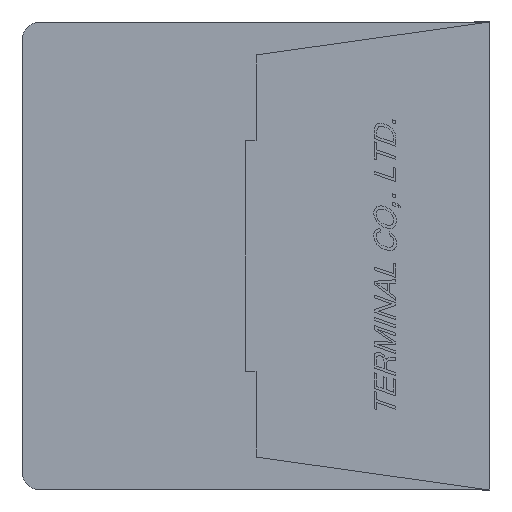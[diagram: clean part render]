
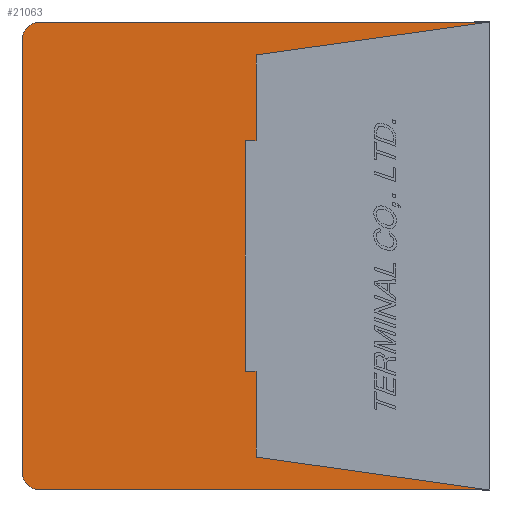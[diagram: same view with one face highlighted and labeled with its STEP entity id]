
A CAD part, left-side view. The second image highlights one B-rep face of the part: STEP entity #21063.
In plain terms, the highlighted planar face has unit normal (-1, 0, 0) as drawn and (1, 0, 0) by its records, which use the part's own axes.
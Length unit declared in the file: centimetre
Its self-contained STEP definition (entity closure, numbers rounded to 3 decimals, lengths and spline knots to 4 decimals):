
#1073=CIRCLE('',#35828,0.05);
#1074=CIRCLE('',#35829,0.05);
#1785=VERTEX_POINT('',#28842);
#1786=VERTEX_POINT('',#28844);
#1792=VERTEX_POINT('',#28858);
#1794=VERTEX_POINT('',#28864);
#1797=VERTEX_POINT('',#28872);
#1799=VERTEX_POINT('',#28878);
#1805=VERTEX_POINT('',#28892);
#1807=VERTEX_POINT('',#28898);
#2158=VERTEX_POINT('',#30438);
#2159=VERTEX_POINT('',#30440);
#2160=VERTEX_POINT('',#30442);
#2161=VERTEX_POINT('',#30444);
#3991=VECTOR('',#23887,1.);
#3998=VECTOR('',#23895,1.);
#4001=VECTOR('',#23899,1.);
#4004=VECTOR('',#23905,1.);
#4007=VECTOR('',#23909,1.);
#4014=VECTOR('',#23917,1.);
#4017=VECTOR('',#23921,1.);
#4437=VECTOR('',#24492,1.);
#4438=VECTOR('',#24495,1.);
#4439=VECTOR('',#24498,1.);
#6464=LINE('',#28843,#3991);
#6471=LINE('',#28857,#3998);
#6474=LINE('',#28863,#4001);
#6477=LINE('',#28871,#4004);
#6480=LINE('',#28877,#4007);
#6487=LINE('',#28891,#4014);
#6490=LINE('',#28897,#4017);
#6910=LINE('',#30437,#4437);
#6911=LINE('',#30441,#4438);
#6912=LINE('',#30445,#4439);
#9158=EDGE_CURVE('',#1786,#1785,#6464,.T.);
#9165=EDGE_CURVE('',#1792,#1786,#6471,.T.);
#9168=EDGE_CURVE('',#1794,#1792,#6474,.T.);
#9172=EDGE_CURVE('',#1797,#1794,#6477,.T.);
#9175=EDGE_CURVE('',#1799,#1797,#6480,.T.);
#9182=EDGE_CURVE('',#1805,#1799,#6487,.T.);
#9185=EDGE_CURVE('',#1807,#1805,#6490,.T.);
#9713=EDGE_CURVE('',#1785,#2158,#6910,.T.);
#9714=EDGE_CURVE('',#2159,#2158,#1073,.T.);
#9715=EDGE_CURVE('',#2159,#2160,#6911,.T.);
#9716=EDGE_CURVE('',#2161,#2160,#1074,.T.);
#9717=EDGE_CURVE('',#2161,#1807,#6912,.T.);
#14326=ORIENTED_EDGE('',*,*,#9158,.T.);
#14327=ORIENTED_EDGE('',*,*,#9713,.T.);
#14328=ORIENTED_EDGE('',*,*,#9714,.F.);
#14329=ORIENTED_EDGE('',*,*,#9715,.T.);
#14330=ORIENTED_EDGE('',*,*,#9716,.F.);
#14331=ORIENTED_EDGE('',*,*,#9717,.T.);
#14332=ORIENTED_EDGE('',*,*,#9185,.T.);
#14333=ORIENTED_EDGE('',*,*,#9182,.T.);
#14334=ORIENTED_EDGE('',*,*,#9175,.T.);
#14335=ORIENTED_EDGE('',*,*,#9172,.T.);
#14336=ORIENTED_EDGE('',*,*,#9168,.T.);
#14337=ORIENTED_EDGE('',*,*,#9165,.T.);
#18396=EDGE_LOOP('',(#14326,#14327,#14328,#14329,#14330,#14331,#14332,#14333,
#14334,#14335,#14336,#14337));
#19775=FACE_BOUND('',#18396,.T.);
#21063=ADVANCED_FACE('',(#19775),#22157,.F.);
#22157=PLANE('',#35827);
#23887=DIRECTION('',(0.,-0.99,-0.139));
#23895=DIRECTION('',(0.,0.,-1.));
#23899=DIRECTION('',(0.,-1.,0.));
#23905=DIRECTION('',(0.,0.,-1.));
#23909=DIRECTION('',(0.,1.,0.));
#23917=DIRECTION('',(0.,0.,-1.));
#23921=DIRECTION('',(0.,0.99,-0.139));
#24491=DIRECTION('',(-1.,0.,0.));
#24492=DIRECTION('',(0.,1.,0.));
#24493=DIRECTION('',(-1.,0.,0.));
#24494=DIRECTION('',(0.,0.,0.05));
#24495=DIRECTION('',(0.,0.,1.));
#24496=DIRECTION('',(-1.,0.,0.));
#24497=DIRECTION('',(0.,0.,0.05));
#24498=DIRECTION('',(0.,-1.,0.));
#28842=CARTESIAN_POINT('',(0.,0.,-0.64));
#28843=CARTESIAN_POINT('',(0.,0.64,-0.55));
#28844=CARTESIAN_POINT('',(0.,0.64,-0.55));
#28857=CARTESIAN_POINT('',(0.,0.64,-0.315));
#28858=CARTESIAN_POINT('',(0.,0.64,-0.315));
#28863=CARTESIAN_POINT('',(0.,0.67,-0.315));
#28864=CARTESIAN_POINT('',(0.,0.67,-0.315));
#28871=CARTESIAN_POINT('',(0.,0.67,0.315));
#28872=CARTESIAN_POINT('',(0.,0.67,0.315));
#28877=CARTESIAN_POINT('',(0.,0.64,0.315));
#28878=CARTESIAN_POINT('',(0.,0.64,0.315));
#28891=CARTESIAN_POINT('',(0.,0.64,0.55));
#28892=CARTESIAN_POINT('',(0.,0.64,0.55));
#28897=CARTESIAN_POINT('',(0.,0.,0.64));
#28898=CARTESIAN_POINT('',(0.,0.,0.64));
#30436=CARTESIAN_POINT('',(0.,0.6345,0.));
#30437=CARTESIAN_POINT('',(0.,0.,-0.64));
#30438=CARTESIAN_POINT('',(0.,1.23,-0.64));
#30439=CARTESIAN_POINT('',(0.,1.23,-0.59));
#30440=CARTESIAN_POINT('',(0.,1.28,-0.59));
#30441=CARTESIAN_POINT('',(0.,1.28,-0.59));
#30442=CARTESIAN_POINT('',(0.,1.28,0.59));
#30443=CARTESIAN_POINT('',(0.,1.23,0.59));
#30444=CARTESIAN_POINT('',(0.,1.23,0.64));
#30445=CARTESIAN_POINT('',(0.,1.23,0.64));
#35827=AXIS2_PLACEMENT_3D('',#30436,#24491,$);
#35828=AXIS2_PLACEMENT_3D('',#30439,#24493,#24494);
#35829=AXIS2_PLACEMENT_3D('',#30443,#24496,#24497);
